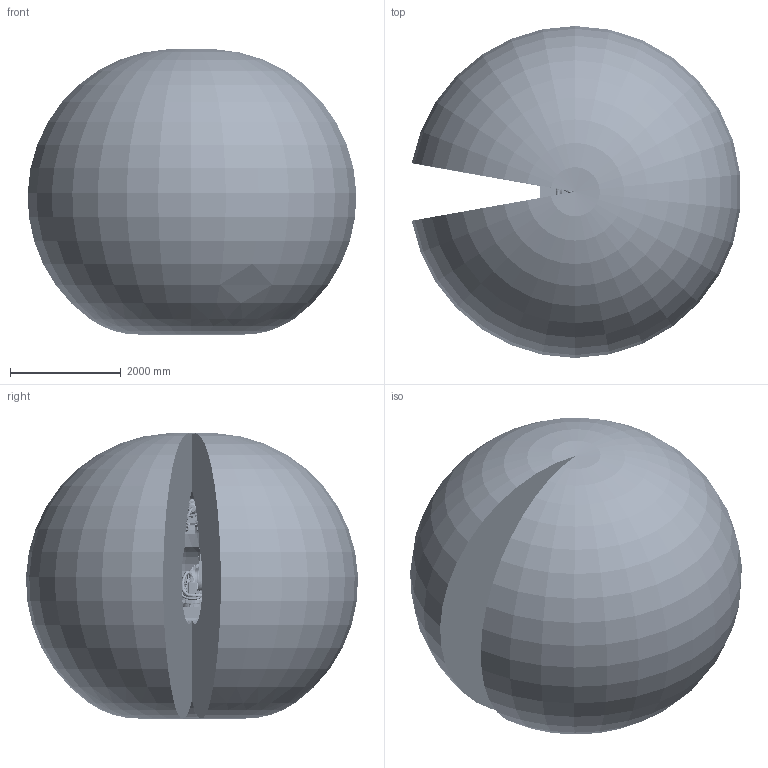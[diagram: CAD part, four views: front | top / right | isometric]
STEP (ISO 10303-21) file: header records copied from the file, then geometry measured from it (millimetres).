
FILE_DESCRIPTION (( 'STEP AP214' ), '1' );
FILE_NAME ('IRB5720-LID-SW_90kg-300_OC_03_ASM.step', '2025-07-08T10:55:00', ( '' ), ( '' ), 'SwSTEP 2.0', 'SolidWorks 2024', '' );
FILE_SCHEMA (( 'AUTOMOTIVE_DESIGN' ));
Length unit declared in the file: millimetre
Products named in the file (18): IRB5720-LID_90kg-300_OmniCore_rev00_LINK05_CABLE; IRB5720-LID-SW_90kg-300_OC_01_LINK03a_CABLE; IRB5720-LID_90kg-300_OmniCore_rev00_LINK04_CABLE; IRB5720-LID_90kg-300_OmniCore_rev00_LINK06_CABLE; IRB5720-LID_90kg-300_OmniCore_rev00_LINK05_CAD; IRB5720-LID_90kg-300_OmniCore_rev00_LINK01m_CABLE; IRB5720-LID-SW_90kg-300_OC_03_ASM; IRB5720-LID_90kg-300_OmniCore_rev00_LINK02_CAD; IRB5720-LID-SW_90kg-300_OC_01_LINK02_CABLE; IRB5720-LID_90kg-300_OmniCore_rev01_LINK03_CAD; IRB5720-LID_90kg-300_OmniCore_rev00_Working-space; IRB5720-LID_90kg-300_OC_01_BASE_CAD; IRB5720-LID-SW_90kg-300_OC_02_LINK03b_CABLE; IRB5720-LID_90kg-300_OmniCore_rev00_LINK01_CAD; IRB5720-LID-SW_90kg-300_OC_01_LINK01_CABLE; IRB5720-LID_90kg-300_OmniCore_rev00_LINK04_CAD; IRB5720-LID_90kg-300_OmniCore_rev00_LINK02m_CABLE; IRB5720-LID_90kg-300_OmniCore_rev00_LINK03m_CABLE
Assembly tree (17 placements, depth 2):
  IRB5720-LID-SW_90kg-300_OC_03_ASM
    IRB5720-LID_90kg-300_OC_01_BASE_CAD
    IRB5720-LID_90kg-300_OmniCore_rev00_LINK01_CAD
    IRB5720-LID_90kg-300_OmniCore_rev00_LINK02_CAD
    IRB5720-LID_90kg-300_OmniCore_rev01_LINK03_CAD
    IRB5720-LID_90kg-300_OmniCore_rev00_LINK04_CAD
    IRB5720-LID_90kg-300_OmniCore_rev00_LINK05_CAD
    IRB5720-LID_90kg-300_OmniCore_rev00_LINK01m_CABLE
    IRB5720-LID_90kg-300_OmniCore_rev00_LINK02m_CABLE
    IRB5720-LID_90kg-300_OmniCore_rev00_LINK03m_CABLE
    IRB5720-LID-SW_90kg-300_OC_01_LINK01_CABLE
    IRB5720-LID-SW_90kg-300_OC_01_LINK02_CABLE
    IRB5720-LID-SW_90kg-300_OC_01_LINK03a_CABLE
    IRB5720-LID_90kg-300_OmniCore_rev00_LINK04_CABLE
    IRB5720-LID_90kg-300_OmniCore_rev00_LINK05_CABLE
    IRB5720-LID_90kg-300_OmniCore_rev00_LINK06_CABLE
    IRB5720-LID_90kg-300_OmniCore_rev00_Working-space
    IRB5720-LID-SW_90kg-300_OC_02_LINK03b_CABLE
Bounding box: 5935.91 x 5997.9 x 5154.8 mm (x, y, z)
Volume: 94028153913.3 mm3; surface area: 150068013.3 mm2
Topology: 26 solids, 71 shells, 8654 faces, 21919 edges, 14013 vertices
Faces by surface type: plane 4154, cylinder 2387, cone 987, bspline 853, torus 209, sphere 64
Entity records: 424751 total; most frequent: CARTESIAN_POINT 180053, ORIENTED_EDGE 43480, DIRECTION 39125, EDGE_CURVE 21740, AXIS2_PLACEMENT_3D 14236, VERTEX_POINT 14014, LINE 10653, VECTOR 10653
